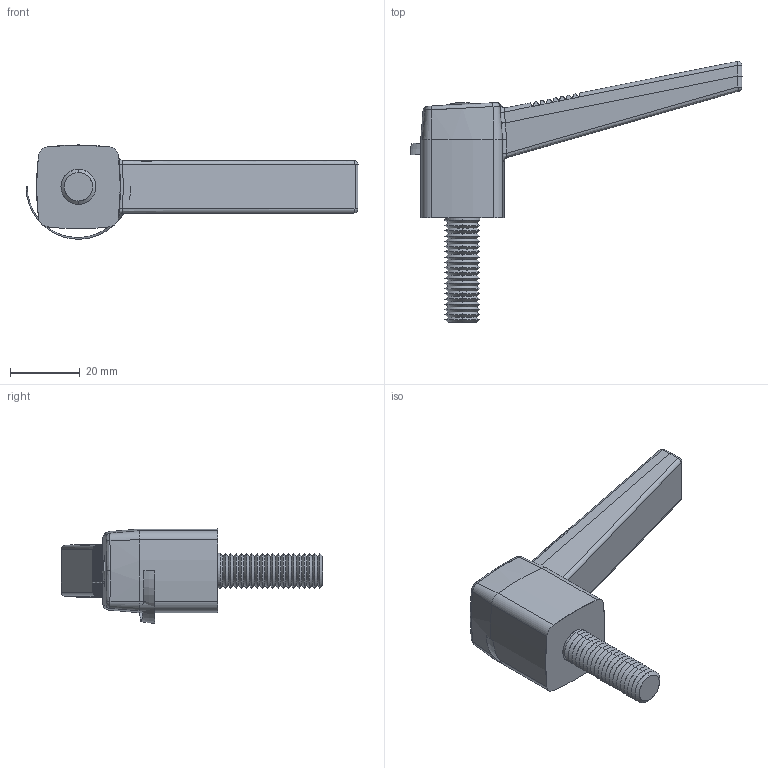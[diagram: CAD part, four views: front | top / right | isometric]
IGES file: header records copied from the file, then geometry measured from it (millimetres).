
Start section: SolidWorks IGES file using analytic representation for surfaces
Global section: file name: C:\Documents and Settings\IANO\Desktop\Temp File\Process pending\PCN pending\74970_v2\74970_v2_20161101_IGES\74970.W0081.igs; native system: SolidWorks 2009; preprocessor: SolidWorks 2009; author: IANO; date: 170306.084736; units: millimetre
Bounding box: 95 x 74.74 x 26.97 mm (x, y, z)
Surface area: 9655 mm2 (no closed solid volume)
Topology: 0 solids, 0 shells, 203 faces, 1581 edges, 1578 vertices
Faces by surface type: revolution 137, bspline 66
